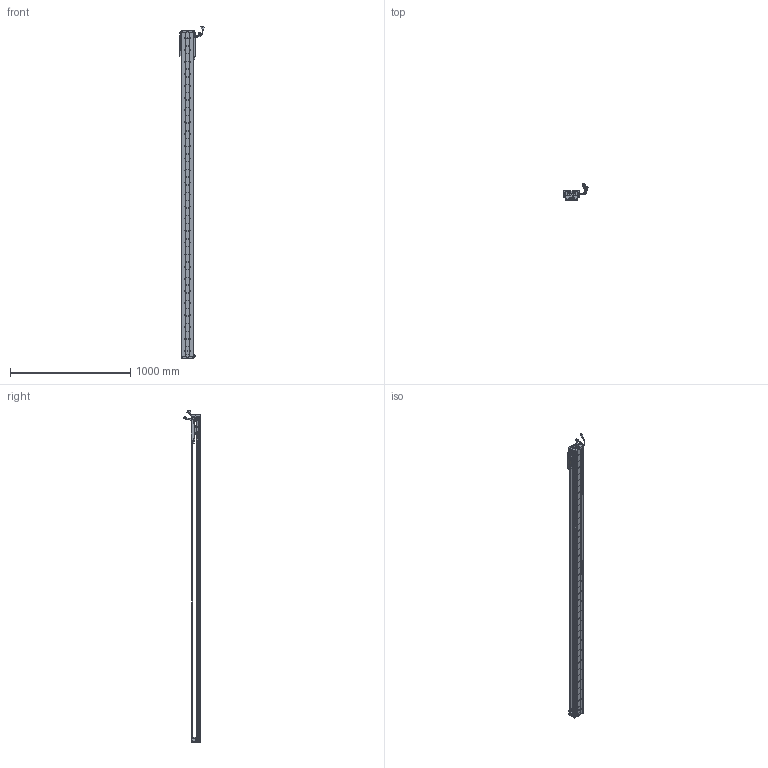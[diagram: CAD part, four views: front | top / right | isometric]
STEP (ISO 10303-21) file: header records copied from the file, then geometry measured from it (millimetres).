
FILE_DESCRIPTION (( 'STEP AP203' ), '1' );
FILE_NAME ('Z2-RY100D-1-L500-B-K.SLDASM_2450.step', '2021-05-17T02:37:53', ( '盈信电脑' ), ( '东莞市道滘镇水果街19号' ), 'SwSTEP 2.0', 'SolidWorks 2016', '' );
FILE_SCHEMA (( 'CONFIG_CONTROL_DESIGN' ));
Length unit declared in the file: millimetre
Products named in the file (36): COVER-Part-1; Z2-RY100D-1-L500-B-K.SLDASM_2450; 140雄赽晤鎢ん堤盄; SEAL-Part-1; HARNESS; PSLH080_PSLF2; 140蚥薯蝶輸; PBU_SHEET; 榋妏寠巭燃_暯_M2_2; SCREW-M1.7; Z2-RY100D-500-倰第菁釱_2450; 覜茼ん672; Z-RY100D詩湍狟揤裔; SCREW-M1.7-1; HARNESS-Part-1; Z2-RY100铝滑块（21款）; SCREW-M1.6-3; LABEL-Part-1; 100-Z-臏賑輸盄裔(21遴); COVER; 080黍杅芛假蚾釱21遴; LABEL; HOLDER0; HARNESS-Part-2; SHIELDPLATE; SCALE-Part-1; SEAL; SCREW-M1.6-2; SCREW-M1.6; SCALE-Part-2; SCALE; Z-100詩湍傷裔啣; Z-RY100D覜茼んえ; Z-RY100D詩湍奻揤裔; Z2-RY100-L500詩湍90mm遵_2450; SCREW-M1.6-1
Assembly tree (43 placements, depth 4):
  Z2-RY100D-1-L500-B-K.SLDASM_2450
    Z2-RY100D-500-倰第菁釱_2450
    Z2-RY100铝滑块（21款）
    PSLH080_PSLF2
      SCALE
        SCALE-Part-1
        SCALE-Part-2
      HARNESS
        HARNESS-Part-1
        HARNESS-Part-2
      LABEL
        LABEL-Part-1
      COVER
        COVER-Part-1
      SEAL
        SEAL-Part-1
      榋妏寠巭燃_暯_M2_2
      SHIELDPLATE
      SCREW-M1.7
      SCREW-M1.7-1
      PBU_SHEET
      SCREW-M1.6
      SCREW-M1.6-1
      SCREW-M1.6-2
      SCREW-M1.6-3
      HOLDER0
    080黍杅芛假蚾釱21遴
    Z-100詩湍傷裔啣  x2
    140蚥薯蝶輸  x2
    覜茼ん672  x3
    Z-RY100D覜茼んえ  x3
    100-Z-臏賑輸盄裔(21遴)
    140雄赽晤鎢ん堤盄
    Z2-RY100-L500詩湍90mm遵_2450
    Z-RY100D詩湍狟揤裔  x2
    Z-RY100D詩湍奻揤裔  x2
Bounding box: 205.79 x 136.11 x 2755.43 mm (x, y, z)
Volume: 4930014.1 mm3; surface area: 1958704.6 mm2
Topology: 38 solids, 38 shells, 3008 faces, 8229 edges, 5260 vertices
Faces by surface type: cylinder 1482, plane 1186, cone 218, torus 69, bspline 53
Entity records: 87353 total; most frequent: CARTESIAN_POINT 18320, DIRECTION 14077, ORIENTED_EDGE 13354, EDGE_CURVE 6677, AXIS2_PLACEMENT_3D 5293, VERTEX_POINT 4328, VECTOR 3491, LINE 3491
